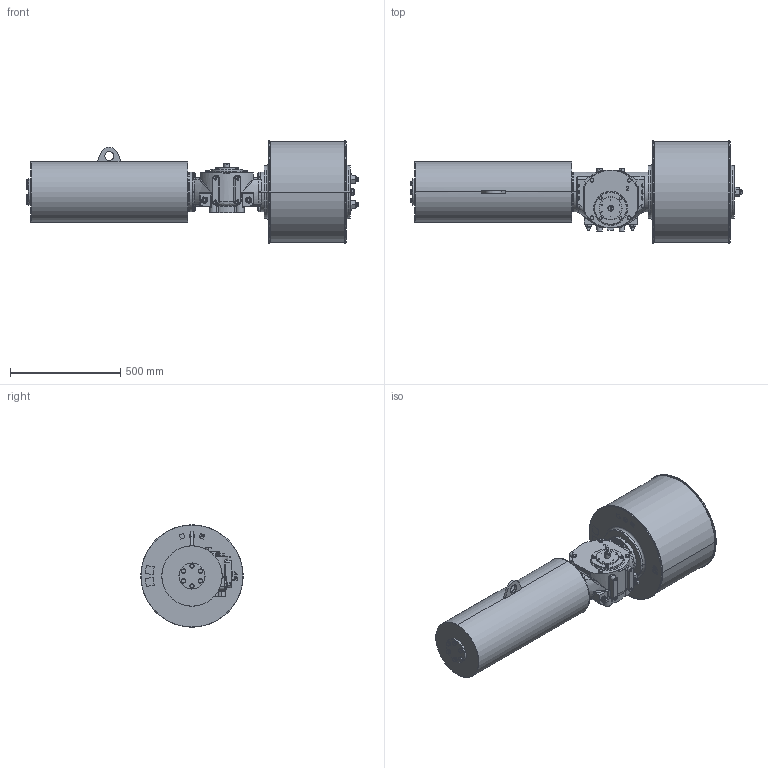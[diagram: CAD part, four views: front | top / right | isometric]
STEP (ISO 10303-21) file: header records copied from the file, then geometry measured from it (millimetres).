
FILE_DESCRIPTION (( 'STEP AP203' ), '1' );
FILE_NAME ('VTS2-450-SR-FO.STEP', '2023-01-01T07:55:48', ( '' ), ( '' ), 'SwSTEP 2.0', 'SolidWorks 2020', '' );
FILE_SCHEMA (( 'CONFIG_CONTROL_DESIGN' ));
Length unit declared in the file: millimetre
Products named in the file (1): VTS2-450-SR-FO
Bounding box: 1503.78 x 464 x 464 mm (x, y, z)
Volume: 112800810 mm3; surface area: 2172612.4 mm2
Topology: 22 solids, 24 shells, 1993 faces, 4900 edges, 3022 vertices
Faces by surface type: plane 737, cylinder 597, cone 509, bspline 142, torus 8
Entity records: 72028 total; most frequent: CARTESIAN_POINT 26147, ORIENTED_EDGE 9676, DIRECTION 9519, EDGE_CURVE 4838, AXIS2_PLACEMENT_3D 3782, VERTEX_POINT 3022, EDGE_LOOP 2196, ADVANCED_FACE 1993
